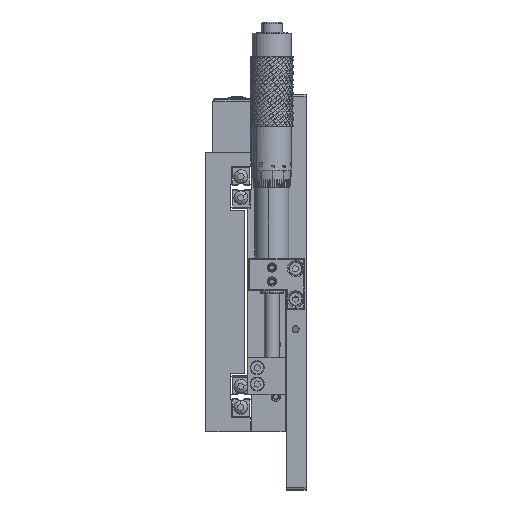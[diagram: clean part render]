
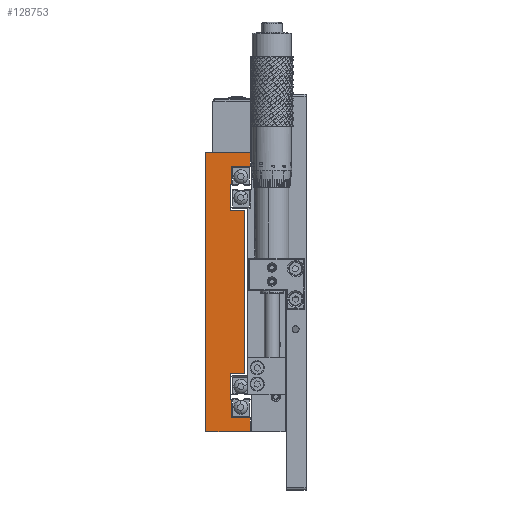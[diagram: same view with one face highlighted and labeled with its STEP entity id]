
A CAD part, left-side view. The second image highlights one B-rep face of the part: STEP entity #128753.
In plain terms, the highlighted planar face has unit normal (-1, 0, 0).
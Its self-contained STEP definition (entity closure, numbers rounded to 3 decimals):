
#80049 = LINE ( 'NONE', #82419, #80064 ) ;
#80064 = VECTOR ( 'NONE', #82399, 1000. ) ;
#80107 = LINE ( 'NONE', #83996, #80120 ) ;
#80114 = LINE ( 'NONE', #83085, #80156 ) ;
#80120 = VECTOR ( 'NONE', #84070, 1000. ) ;
#80132 = LINE ( 'NONE', #84000, #80143 ) ;
#80143 = VECTOR ( 'NONE', #84093, 1000. ) ;
#80156 = VECTOR ( 'NONE', #83156, 1000. ) ;
#80165 = LINE ( 'NONE', #84724, #80214 ) ;
#80169 = VECTOR ( 'NONE', #84790, 1000. ) ;
#80179 = VECTOR ( 'NONE', #84982, 1000. ) ;
#80194 = LINE ( 'NONE', #85069, #80179 ) ;
#80201 = VECTOR ( 'NONE', #84200, 1000. ) ;
#80214 = VECTOR ( 'NONE', #84548, 1000. ) ;
#80216 = LINE ( 'NONE', #84335, #80201 ) ;
#80219 = LINE ( 'NONE', #85044, #80169 ) ;
#80224 = VECTOR ( 'NONE', #86063, 1000. ) ;
#80225 = LINE ( 'NONE', #85358, #80232 ) ;
#80232 = VECTOR ( 'NONE', #85221, 1000. ) ;
#80237 = LINE ( 'NONE', #85881, #80276 ) ;
#80241 = LINE ( 'NONE', #85688, #80274 ) ;
#80246 = LINE ( 'NONE', #85454, #80259 ) ;
#80248 = VECTOR ( 'NONE', #85713, 1000. ) ;
#80256 = LINE ( 'NONE', #85085, #80248 ) ;
#80259 = VECTOR ( 'NONE', #85462, 1000. ) ;
#80274 = VECTOR ( 'NONE', #85772, 1000. ) ;
#80276 = VECTOR ( 'NONE', #85955, 1000. ) ;
#80280 = LINE ( 'NONE', #85834, #80224 ) ;
#80295 = LINE ( 'NONE', #87407, #80300 ) ;
#80300 = VECTOR ( 'NONE', #87437, 1000. ) ;
#80361 = VECTOR ( 'NONE', #87650, 1000. ) ;
#80389 = LINE ( 'NONE', #87506, #80361 ) ;
#82399 = DIRECTION ( 'NONE',  ( 0., 0., 1. ) ) ;
#82419 = CARTESIAN_POINT ( 'NONE',  ( -81.395, 17.305, 46. ) ) ;
#83085 = CARTESIAN_POINT ( 'NONE',  ( -81.395, 17.805, 46. ) ) ;
#83156 = DIRECTION ( 'NONE',  ( 0., -1., 0. ) ) ;
#83996 = CARTESIAN_POINT ( 'NONE',  ( -81.395, 9.305, -54. ) ) ;
#84000 = CARTESIAN_POINT ( 'NONE',  ( -81.395, 9.305, -60. ) ) ;
#84070 = DIRECTION ( 'NONE',  ( 0., 1., 0. ) ) ;
#84093 = DIRECTION ( 'NONE',  ( 0., 0., -1. ) ) ;
#84200 = DIRECTION ( 'NONE',  ( 0., -1., 0. ) ) ;
#84335 = CARTESIAN_POINT ( 'NONE',  ( -81.395, 17.805, -35. ) ) ;
#84548 = DIRECTION ( 'NONE',  ( 0., 0., 1. ) ) ;
#84724 = CARTESIAN_POINT ( 'NONE',  ( -81.395, 28.305, -60. ) ) ;
#84790 = DIRECTION ( 'NONE',  ( 0., 1., 0. ) ) ;
#84982 = DIRECTION ( 'NONE',  ( 0., 0., 1. ) ) ;
#85044 = CARTESIAN_POINT ( 'NONE',  ( -81.395, 17.305, -46. ) ) ;
#85069 = CARTESIAN_POINT ( 'NONE',  ( -81.395, 17.305, -54. ) ) ;
#85085 = CARTESIAN_POINT ( 'NONE',  ( -81.395, 17.805, 35. ) ) ;
#85221 = DIRECTION ( 'NONE',  ( 0., 1., 0. ) ) ;
#85358 = CARTESIAN_POINT ( 'NONE',  ( -81.395, 11.605, 35. ) ) ;
#85454 = CARTESIAN_POINT ( 'NONE',  ( -81.395, 17.805, -46. ) ) ;
#85462 = DIRECTION ( 'NONE',  ( 0., 0., 1. ) ) ;
#85688 = CARTESIAN_POINT ( 'NONE',  ( -81.395, 28.305, -60. ) ) ;
#85713 = DIRECTION ( 'NONE',  ( 0., 0., 1. ) ) ;
#85772 = DIRECTION ( 'NONE',  ( 0., 1., 0. ) ) ;
#85834 = CARTESIAN_POINT ( 'NONE',  ( -81.395, 9.305, -60. ) ) ;
#85881 = CARTESIAN_POINT ( 'NONE',  ( -81.395, 11.605, -35. ) ) ;
#85955 = DIRECTION ( 'NONE',  ( 0., 0., 1. ) ) ;
#86063 = DIRECTION ( 'NONE',  ( 0., 0., -1. ) ) ;
#87407 = CARTESIAN_POINT ( 'NONE',  ( -81.395, 28.305, 60. ) ) ;
#87437 = DIRECTION ( 'NONE',  ( 0., -1., 0. ) ) ;
#87506 = CARTESIAN_POINT ( 'NONE',  ( -81.395, 17.305, 54. ) ) ;
#87650 = DIRECTION ( 'NONE',  ( 0., -1., 0. ) ) ;
#108077 = CARTESIAN_POINT ( 'NONE',  ( -81.395, 17.305, 46. ) ) ;
#108180 = CARTESIAN_POINT ( 'NONE',  ( -81.395, 17.305, 54. ) ) ;
#109949 = CARTESIAN_POINT ( 'NONE',  ( -81.395, 9.305, -60. ) ) ;
#109957 = CARTESIAN_POINT ( 'NONE',  ( -81.395, 17.805, 46. ) ) ;
#109973 = CARTESIAN_POINT ( 'NONE',  ( -81.395, 17.805, 35. ) ) ;
#110014 = CARTESIAN_POINT ( 'NONE',  ( -81.395, 28.305, 60. ) ) ;
#110041 = CARTESIAN_POINT ( 'NONE',  ( -81.395, 17.305, -54. ) ) ;
#110077 = CARTESIAN_POINT ( 'NONE',  ( -81.395, 17.305, -46. ) ) ;
#110091 = CARTESIAN_POINT ( 'NONE',  ( -81.395, 28.305, -60. ) ) ;
#110099 = CARTESIAN_POINT ( 'NONE',  ( -81.395, 11.605, 35. ) ) ;
#110184 = CARTESIAN_POINT ( 'NONE',  ( -81.395, 9.305, 54. ) ) ;
#110193 = CARTESIAN_POINT ( 'NONE',  ( -81.395, 9.305, -54. ) ) ;
#110217 = CARTESIAN_POINT ( 'NONE',  ( -81.395, 17.805, -46. ) ) ;
#110248 = CARTESIAN_POINT ( 'NONE',  ( -81.395, 9.305, 60. ) ) ;
#110259 = CARTESIAN_POINT ( 'NONE',  ( -81.395, 11.605, -35. ) ) ;
#110277 = CARTESIAN_POINT ( 'NONE',  ( -81.395, 17.805, -35. ) ) ;
#124127 = ORIENTED_EDGE ( 'NONE', *, *, #290763, .F. ) ;
#124149 = ORIENTED_EDGE ( 'NONE', *, *, #290018, .T. ) ;
#124163 = ORIENTED_EDGE ( 'NONE', *, *, #289512, .T. ) ;
#124171 = ORIENTED_EDGE ( 'NONE', *, *, #289918, .T. ) ;
#124180 = ORIENTED_EDGE ( 'NONE', *, *, #289927, .F. ) ;
#124252 = ORIENTED_EDGE ( 'NONE', *, *, #290246, .T. ) ;
#124260 = ORIENTED_EDGE ( 'NONE', *, *, #290370, .T. ) ;
#124266 = ORIENTED_EDGE ( 'NONE', *, *, #290336, .T. ) ;
#124271 = ORIENTED_EDGE ( 'NONE', *, *, #290210, .T. ) ;
#124299 = ORIENTED_EDGE ( 'NONE', *, *, #290158, .T. ) ;
#124327 = ORIENTED_EDGE ( 'NONE', *, *, #290362, .F. ) ;
#124333 = ORIENTED_EDGE ( 'NONE', *, *, #290294, .T. ) ;
#124377 = ORIENTED_EDGE ( 'NONE', *, *, #290793, .T. ) ;
#124391 = ORIENTED_EDGE ( 'NONE', *, *, #289759, .T. ) ;
#124394 = ORIENTED_EDGE ( 'NONE', *, *, #290085, .F. ) ;
#124396 = ORIENTED_EDGE ( 'NONE', *, *, #290446, .F. ) ;
#128753 = ADVANCED_FACE ( 'NONE', ( #331764 ), #338231, .T. ) ;
#134775 = AXIS2_PLACEMENT_3D ( 'NONE', #338186, #338217, #338239 ) ;
#289512 = EDGE_CURVE ( 'NONE', #341815, #341836, #80049, .T. ) ;
#289759 = EDGE_CURVE ( 'NONE', #342037, #341815, #80114, .T. ) ;
#289918 = EDGE_CURVE ( 'NONE', #342396, #342249, #80107, .T. ) ;
#289927 = EDGE_CURVE ( 'NONE', #342396, #342166, #80132, .T. ) ;
#290018 = EDGE_CURVE ( 'NONE', #342356, #342603, #80216, .T. ) ;
#290085 = EDGE_CURVE ( 'NONE', #342172, #342118, #80165, .T. ) ;
#290158 = EDGE_CURVE ( 'NONE', #342249, #342337, #80194, .T. ) ;
#290210 = EDGE_CURVE ( 'NONE', #342337, #342615, #80219, .T. ) ;
#290246 = EDGE_CURVE ( 'NONE', #342214, #342103, #80225, .T. ) ;
#290294 = EDGE_CURVE ( 'NONE', #342103, #342037, #80256, .T. ) ;
#290336 = EDGE_CURVE ( 'NONE', #342615, #342356, #80246, .T. ) ;
#290362 = EDGE_CURVE ( 'NONE', #342166, #342172, #80241, .T. ) ;
#290370 = EDGE_CURVE ( 'NONE', #342603, #342214, #80237, .T. ) ;
#290446 = EDGE_CURVE ( 'NONE', #342362, #342392, #80280, .T. ) ;
#290763 = EDGE_CURVE ( 'NONE', #342118, #342362, #80295, .T. ) ;
#290793 = EDGE_CURVE ( 'NONE', #341836, #342392, #80389, .T. ) ;
#326645 = EDGE_LOOP ( 'NONE', ( #124377, #124396, #124127, #124394, #124327, #124180, #124171, #124299, #124271, #124266, #124149, #124260, #124252, #124333, #124391, #124163 ) ) ;
#331764 = FACE_OUTER_BOUND ( 'NONE', #326645, .T. ) ;
#338186 = CARTESIAN_POINT ( 'NONE',  ( -81.395, 18.805, 0. ) ) ;
#338217 = DIRECTION ( 'NONE',  ( -1., 0., 0. ) ) ;
#338231 = PLANE ( 'NONE',  #134775 ) ;
#338239 = DIRECTION ( 'NONE',  ( 0., 0., -1. ) ) ;
#341815 = VERTEX_POINT ( 'NONE', #108077 ) ;
#341836 = VERTEX_POINT ( 'NONE', #108180 ) ;
#342037 = VERTEX_POINT ( 'NONE', #109957 ) ;
#342103 = VERTEX_POINT ( 'NONE', #109973 ) ;
#342118 = VERTEX_POINT ( 'NONE', #110014 ) ;
#342166 = VERTEX_POINT ( 'NONE', #109949 ) ;
#342172 = VERTEX_POINT ( 'NONE', #110091 ) ;
#342214 = VERTEX_POINT ( 'NONE', #110099 ) ;
#342249 = VERTEX_POINT ( 'NONE', #110041 ) ;
#342337 = VERTEX_POINT ( 'NONE', #110077 ) ;
#342356 = VERTEX_POINT ( 'NONE', #110277 ) ;
#342362 = VERTEX_POINT ( 'NONE', #110248 ) ;
#342392 = VERTEX_POINT ( 'NONE', #110184 ) ;
#342396 = VERTEX_POINT ( 'NONE', #110193 ) ;
#342603 = VERTEX_POINT ( 'NONE', #110259 ) ;
#342615 = VERTEX_POINT ( 'NONE', #110217 ) ;
